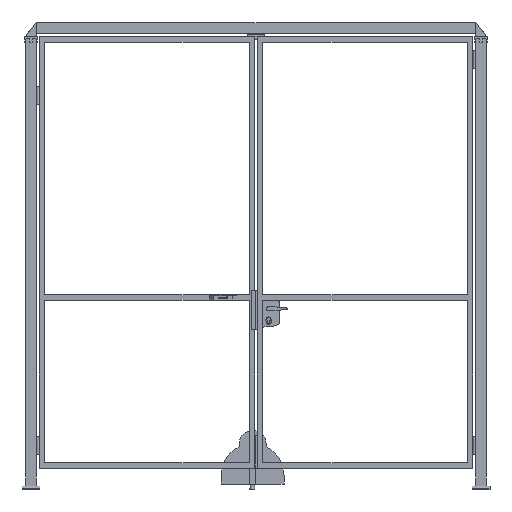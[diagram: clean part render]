
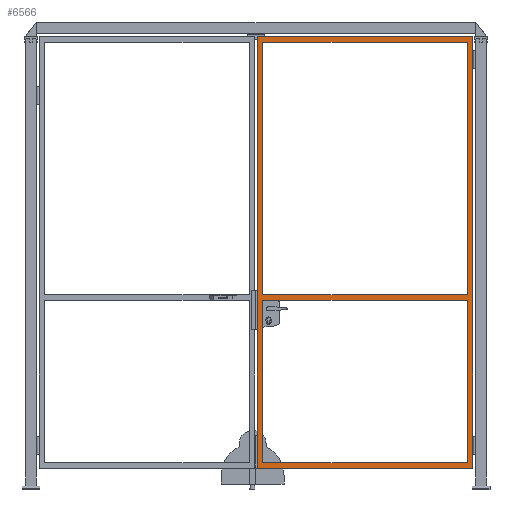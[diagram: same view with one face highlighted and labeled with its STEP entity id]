
A CAD part, front view. The second image highlights one B-rep face of the part: STEP entity #6566.
In plain terms, the highlighted planar face has unit normal (0, -1, 0) as drawn and (0, 1, 0) by its records, which use the part's own axes.
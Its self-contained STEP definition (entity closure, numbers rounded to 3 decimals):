
#825=FACE_BOUND('',#1309,.T.);
#826=FACE_BOUND('',#1310,.T.);
#969=FACE_OUTER_BOUND('',#1308,.T.);
#1308=EDGE_LOOP('',(#5075,#5076,#5077,#5078));
#1309=EDGE_LOOP('',(#5079,#5080,#5081,#5082));
#1310=EDGE_LOOP('',(#5083,#5084,#5085,#5086));
#1807=LINE('',#9754,#2560);
#1809=LINE('',#9760,#2562);
#1814=LINE('',#9769,#2567);
#1824=LINE('',#9789,#2577);
#1828=LINE('',#9796,#2581);
#1829=LINE('',#9798,#2582);
#1830=LINE('',#9800,#2583);
#1831=LINE('',#9802,#2584);
#1833=LINE('',#9807,#2586);
#1837=LINE('',#9814,#2590);
#1838=LINE('',#9816,#2591);
#1839=LINE('',#9818,#2592);
#2560=VECTOR('',#7821,1.);
#2562=VECTOR('',#7825,1.);
#2567=VECTOR('',#7832,1.);
#2577=VECTOR('',#7846,1.);
#2581=VECTOR('',#7852,1.);
#2582=VECTOR('',#7855,1.);
#2583=VECTOR('',#7858,1.);
#2584=VECTOR('',#7861,1.);
#2586=VECTOR('',#7865,1.);
#2590=VECTOR('',#7871,1.);
#2591=VECTOR('',#7874,1.);
#2592=VECTOR('',#7877,1.);
#3239=VERTEX_POINT('',#9748);
#3241=VERTEX_POINT('',#9752);
#3242=VERTEX_POINT('',#9756);
#3244=VERTEX_POINT('',#9759);
#3247=VERTEX_POINT('',#9767);
#3255=VERTEX_POINT('',#9788);
#3256=VERTEX_POINT('',#9792);
#3257=VERTEX_POINT('',#9794);
#3258=VERTEX_POINT('',#9804);
#3259=VERTEX_POINT('',#9806);
#3260=VERTEX_POINT('',#9810);
#3261=VERTEX_POINT('',#9812);
#3931=EDGE_CURVE('',#3241,#3239,#1807,.T.);
#3933=EDGE_CURVE('',#3242,#3244,#1809,.T.);
#3938=EDGE_CURVE('',#3242,#3247,#1814,.T.);
#3948=EDGE_CURVE('',#3255,#3244,#1824,.T.);
#3952=EDGE_CURVE('',#3256,#3257,#1828,.T.);
#3953=EDGE_CURVE('',#3247,#3255,#1829,.T.);
#3954=EDGE_CURVE('',#3257,#3239,#1830,.T.);
#3955=EDGE_CURVE('',#3241,#3256,#1831,.T.);
#3957=EDGE_CURVE('',#3258,#3259,#1833,.T.);
#3961=EDGE_CURVE('',#3261,#3260,#1837,.T.);
#3962=EDGE_CURVE('',#3259,#3261,#1838,.T.);
#3963=EDGE_CURVE('',#3258,#3260,#1839,.T.);
#5075=ORIENTED_EDGE('',*,*,#3962,.F.);
#5076=ORIENTED_EDGE('',*,*,#3957,.F.);
#5077=ORIENTED_EDGE('',*,*,#3963,.T.);
#5078=ORIENTED_EDGE('',*,*,#3961,.F.);
#5079=ORIENTED_EDGE('',*,*,#3938,.T.);
#5080=ORIENTED_EDGE('',*,*,#3953,.T.);
#5081=ORIENTED_EDGE('',*,*,#3948,.T.);
#5082=ORIENTED_EDGE('',*,*,#3933,.F.);
#5083=ORIENTED_EDGE('',*,*,#3931,.F.);
#5084=ORIENTED_EDGE('',*,*,#3955,.T.);
#5085=ORIENTED_EDGE('',*,*,#3952,.T.);
#5086=ORIENTED_EDGE('',*,*,#3954,.T.);
#6308=PLANE('',#6955);
#6566=ADVANCED_FACE('',(#969,#825,#826),#6308,.F.);
#6955=AXIS2_PLACEMENT_3D('',#9817,#7875,#7876);
#7821=DIRECTION('',(-1.,0.,0.));
#7825=DIRECTION('',(1.,0.,0.));
#7832=DIRECTION('',(0.,0.,-1.));
#7846=DIRECTION('',(0.,0.,1.));
#7852=DIRECTION('',(-1.,0.,0.));
#7855=DIRECTION('',(1.,0.,0.));
#7858=DIRECTION('',(0.,0.,-1.));
#7861=DIRECTION('',(0.,0.,1.));
#7865=DIRECTION('',(-1.,0.,0.));
#7871=DIRECTION('',(1.,0.,0.));
#7874=DIRECTION('',(0.,0.,-1.));
#7875=DIRECTION('center_axis',(0.,-1.,0.));
#7876=DIRECTION('ref_axis',(0.,0.,-1.));
#7877=DIRECTION('',(0.,0.,-1.));
#9748=CARTESIAN_POINT('',(30.,30.,965.));
#9752=CARTESIAN_POINT('',(1170.,30.,965.));
#9754=CARTESIAN_POINT('',(600.,30.,965.));
#9756=CARTESIAN_POINT('',(30.,30.,935.));
#9759=CARTESIAN_POINT('',(1170.,30.,935.));
#9760=CARTESIAN_POINT('',(600.,30.,935.));
#9767=CARTESIAN_POINT('',(30.,30.,30.));
#9769=CARTESIAN_POINT('',(30.,30.,1200.));
#9788=CARTESIAN_POINT('',(1170.,30.,30.));
#9789=CARTESIAN_POINT('',(1170.,30.,1200.));
#9792=CARTESIAN_POINT('',(1170.,30.,2370.));
#9794=CARTESIAN_POINT('',(30.,30.,2370.));
#9796=CARTESIAN_POINT('',(600.,30.,2370.));
#9798=CARTESIAN_POINT('',(600.,30.,30.));
#9800=CARTESIAN_POINT('',(30.,30.,1200.));
#9802=CARTESIAN_POINT('',(1170.,30.,1200.));
#9804=CARTESIAN_POINT('',(1200.,30.,2400.));
#9806=CARTESIAN_POINT('',(0.,30.,2400.));
#9807=CARTESIAN_POINT('',(600.,30.,2400.));
#9810=CARTESIAN_POINT('',(1200.,30.,0.));
#9812=CARTESIAN_POINT('',(0.,30.,0.));
#9814=CARTESIAN_POINT('',(600.,30.,0.));
#9816=CARTESIAN_POINT('',(0.,30.,1200.));
#9817=CARTESIAN_POINT('Origin',(600.,30.,1200.));
#9818=CARTESIAN_POINT('',(1200.,30.,1200.));
